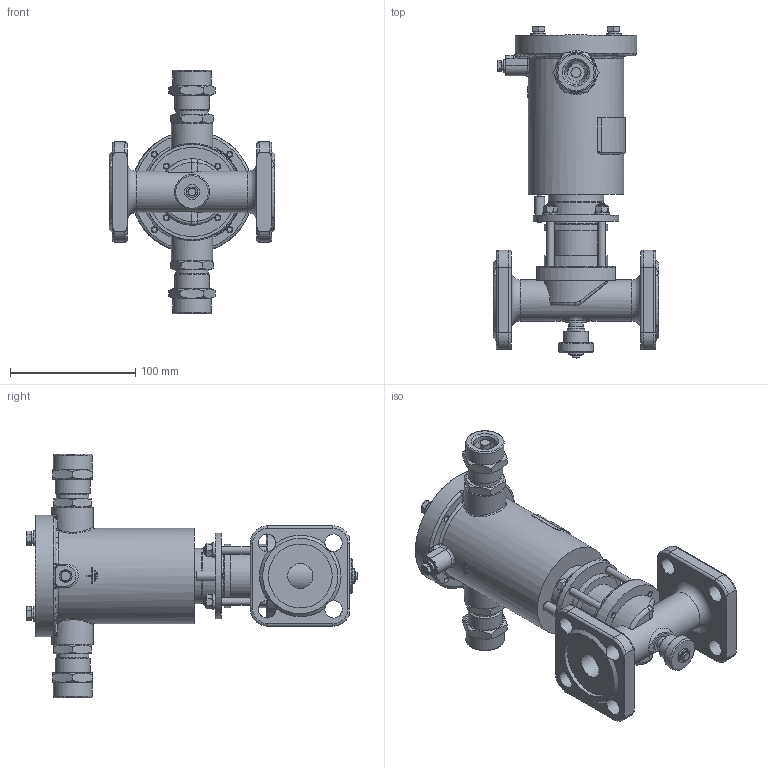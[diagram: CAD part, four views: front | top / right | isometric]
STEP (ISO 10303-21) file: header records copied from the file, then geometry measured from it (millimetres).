
FILE_DESCRIPTION(('STEP AP203'), '1');
FILE_NAME('ÑÅÍÑ DN20PN25-Â.stp', '2018-09-19T08:44:04', ('Îðëîâ Å.Â.'), ('ÎÎÎ ÍÏÏ Ñåíñîð'), 'ASCON STEP Converter 1.3', 'Kompas 3D', '');
FILE_SCHEMA(('CONFIG_CONTROL_DESIGN','SUPPORT_RESOURCE_SCHEMA'));
Length unit declared in the file: millimetre
Products named in the file (1): 46
Bounding box: 132 x 264.7 x 194 mm (x, y, z)
Volume: 675192.2 mm3; surface area: 224468.7 mm2
Topology: 3 solids, 18 shells, 1973 faces, 5232 edges, 3406 vertices
Faces by surface type: cylinder 1022, plane 734, cone 126, torus 40, bspline 35, extrusion 16
Full cylindrical faces by diameter (mm): 2.459 x4, 4 x8, 4.134 x1, 4.5 x2, 4.917 x4, 5 x6, 5.1 x1, 6 x16, 6.1 x1, 6.3 x2, 6.4 x1, 6.5 x11, 8 x7, 9 x1, 10 x3, 11.5 x1, 12 x5, 12.376 x1, 13 x2, 14 x9, 15 x1, 16 x1, 18.632 x2, 20 x6, 20.5 x1, 22 x2, 22.376 x2, 22.5 x1, 23.5 x3, 24 x2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
Entity records: 76876 total; most frequent: CARTESIAN_POINT 26524, DIRECTION 10957, ORIENTED_EDGE 10440, EDGE_CURVE 5220, AXIS2_PLACEMENT_3D 4234, VERTEX_POINT 3406, VECTOR 2489, LINE 2473
